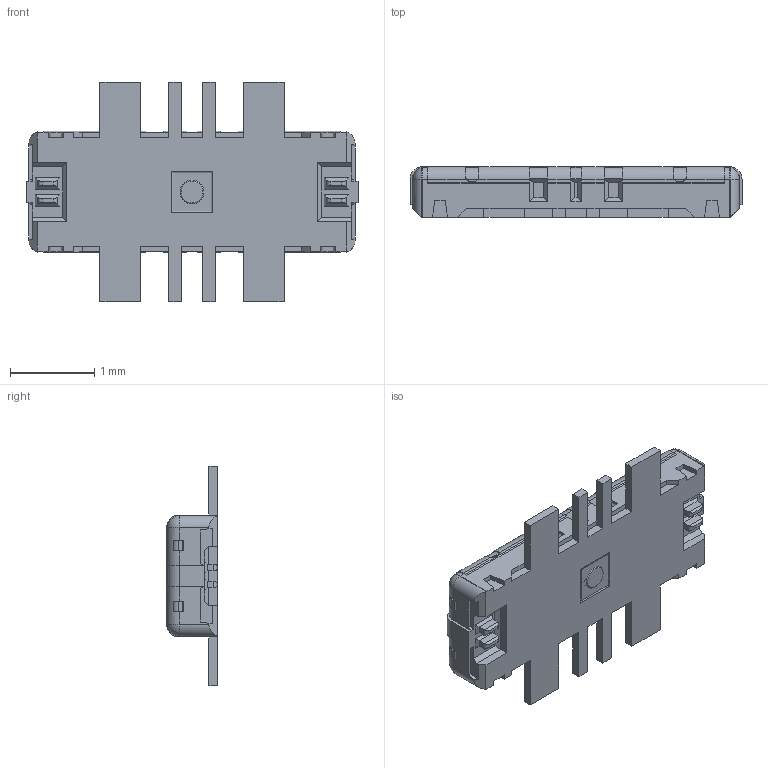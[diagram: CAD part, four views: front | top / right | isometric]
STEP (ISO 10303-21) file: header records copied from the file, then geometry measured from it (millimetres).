
FILE_DESCRIPTION (( 'STEP AP203' ), '1' );
FILE_NAME ('GT-B0407MSV06-04B0101.STEP', '2026-04-08T01:33:53', ( '' ), ( '' ), 'SwSTEP 2.0', 'SolidWorks 2020', '' );
FILE_SCHEMA (( 'CONFIG_CONTROL_DESIGN' ));
Length unit declared in the file: millimetre
Products named in the file (1): GT-B0407MSV06-04B0101
Bounding box: 3.93 x 0.6 x 2.6 mm (x, y, z)
Volume: 2.1 mm3; surface area: 25.4 mm2
Topology: 1 solids, 1 shells, 691 faces, 1871 edges, 1208 vertices
Faces by surface type: plane 499, cylinder 94, bspline 81, cone 7, torus 6, sphere 4
Entity records: 25416 total; most frequent: CARTESIAN_POINT 8571, ORIENTED_EDGE 3734, DIRECTION 3036, EDGE_CURVE 1867, LINE 1424, VECTOR 1424, VERTEX_POINT 1208, AXIS2_PLACEMENT_3D 806
